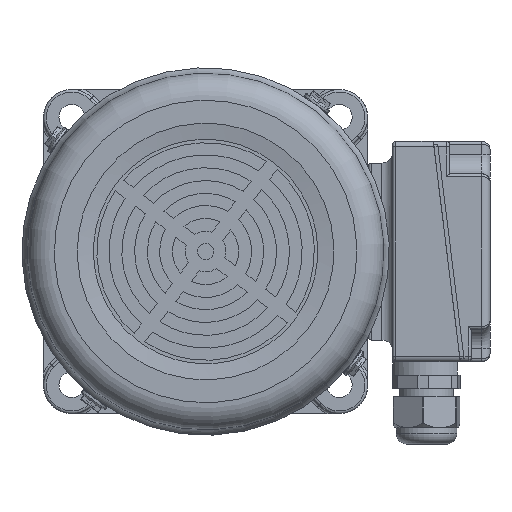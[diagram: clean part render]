
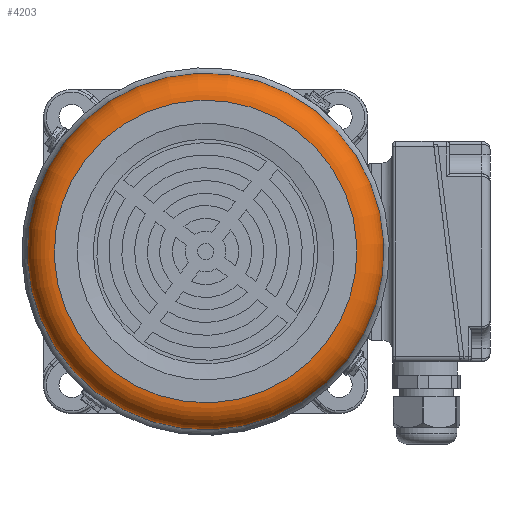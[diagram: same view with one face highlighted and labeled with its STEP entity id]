
A CAD part, left-side view. The second image highlights one B-rep face of the part: STEP entity #4203.
In plain terms, the highlighted toroidal (fillet/blend) face has major radius 56 mm and minor radius 10 mm.
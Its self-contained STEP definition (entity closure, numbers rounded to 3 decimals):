
#1170=TOROIDAL_SURFACE('',#62301,56.,10.);
#2373=FACE_BOUND('',#12736,.T.);
#2374=FACE_BOUND('',#12737,.T.);
#4203=ADVANCED_FACE('',(#2373,#2374),#1170,.T.);
#12736=EDGE_LOOP('',(#23719));
#12737=EDGE_LOOP('',(#23720));
#23719=ORIENTED_EDGE('',*,*,#42841,.T.);
#23720=ORIENTED_EDGE('',*,*,#41149,.F.);
#34808=VERTEX_POINT('',#87675);
#35916=VERTEX_POINT('',#94342);
#41149=EDGE_CURVE('',#34808,#34808,#57963,.T.);
#42841=EDGE_CURVE('',#35916,#35916,#58560,.T.);
#57963=CIRCLE('',#61145,56.);
#58560=CIRCLE('',#62300,66.);
#61145=AXIS2_PLACEMENT_3D('',#87674,#69549,#69550);
#62300=AXIS2_PLACEMENT_3D('',#94341,#72669,#72670);
#62301=AXIS2_PLACEMENT_3D('',#94343,#72671,#72672);
#69549=DIRECTION('',(-1.,0.,0.));
#69550=DIRECTION('',(0.,-0.609,0.793));
#72669=DIRECTION('',(-1.,0.,0.));
#72670=DIRECTION('',(0.,-0.609,0.793));
#72671=DIRECTION('',(-1.,0.,0.));
#72672=DIRECTION('',(0.,-0.609,0.793));
#87674=CARTESIAN_POINT('',(-190.671,412.833,-396.072));
#87675=CARTESIAN_POINT('',(-190.671,378.743,-351.645));
#94341=CARTESIAN_POINT('',(-180.671,412.833,-396.072));
#94342=CARTESIAN_POINT('',(-180.671,372.655,-343.711));
#94343=CARTESIAN_POINT('',(-180.671,412.833,-396.072));
